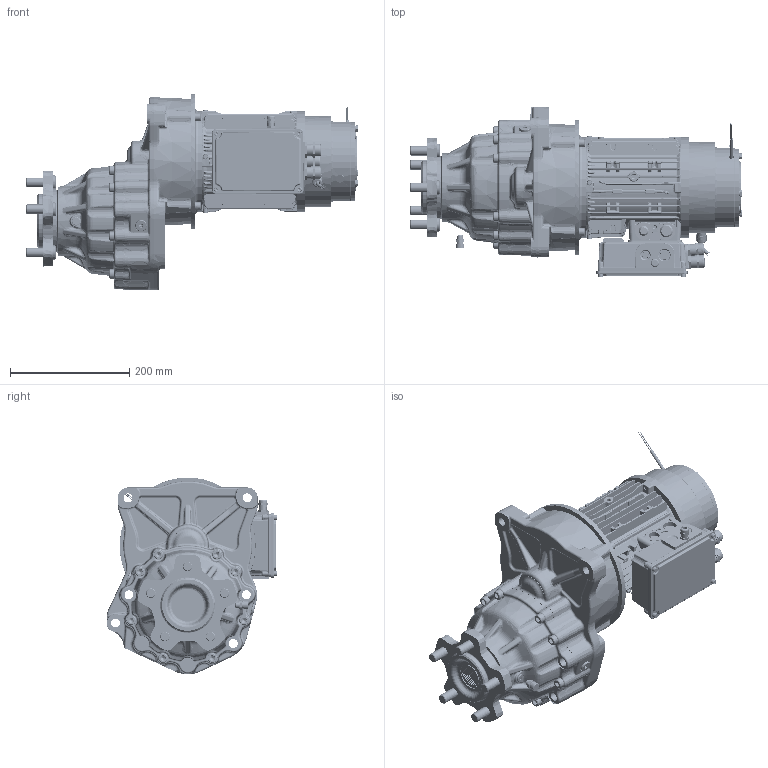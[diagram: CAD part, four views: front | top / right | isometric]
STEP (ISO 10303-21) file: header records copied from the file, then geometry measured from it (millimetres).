
FILE_DESCRIPTION(/* description */ (''),/* implementation_level */ '2;1');
FILE_NAME(/* name */ 'Z:\SITO WEB 2024\Dual Drive\MRP190\MRP190 PMAC\MRP190-PMAC.stp',/* time_stamp */ '2024-03-15T14:19:54+01:00',/* author */ ('cad3'),/* organization */ (''),/* preprocessor_version */ 'ST-DEVELOPER v18.1',/* originating_system */ 'Autodesk Inventor 2022',/* authorisation */ '');
FILE_SCHEMA (('AUTOMOTIVE_DESIGN { 1 0 10303 214 3 1 1 }'));
Products named in the file (1): MRP190-PMAC
Bounding box: 557 x 286.6 x 330.2 mm (x, y, z)
Volume: 8091769.4 mm3; surface area: 1184466.2 mm2
Topology: 21 solids, 53 shells, 15014 faces, 36879 edges, 22471 vertices
Faces by surface type: plane 6959, bspline 3675, cylinder 2742, cone 697, torus 604, sphere 337
Full cylindrical faces by diameter (mm): 0.5 x2, 1.5 x2, 2 x6, 3 x9, 3.2 x4, 3.242 x3, 4 x2, 4.134 x7, 4.2 x4, 4.5 x2, 4.917 x12, 5 x26, 5.2 x6, 5.3 x8, 5.4 x1, 5.5 x2, 6 x22, 6.2 x6, 6.3 x3, 6.4 x3, 6.5 x14, 6.6 x1, 6.63 x1, 6.8 x5, 7.5 x1, 8 x15, 8.4 x5, 8.5 x13, 8.88 x3, 8.917 x3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
Entity records: 696200 total; most frequent: CARTESIAN_POINT 342330, ORIENTED_EDGE 73202, DIRECTION 68376, EDGE_CURVE 36601, AXIS2_PLACEMENT_3D 25882, VERTEX_POINT 22517, LINE 16612, VECTOR 16612
